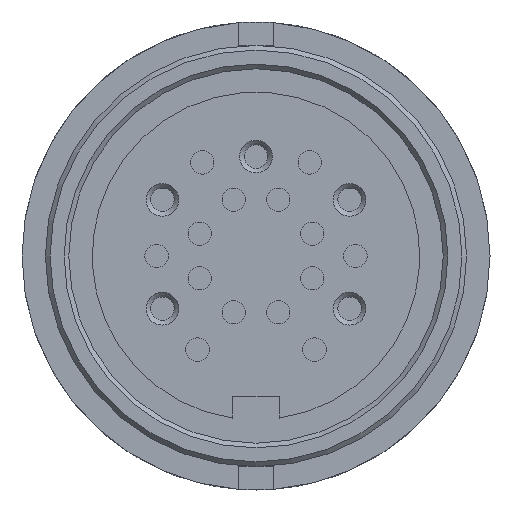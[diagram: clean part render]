
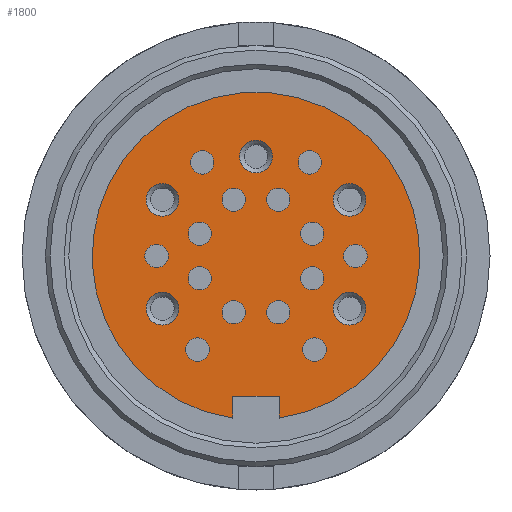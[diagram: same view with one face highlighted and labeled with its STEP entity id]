
A CAD part, front view. The second image highlights one B-rep face of the part: STEP entity #1800.
In plain terms, the highlighted planar face has unit normal (0, -1, 0).
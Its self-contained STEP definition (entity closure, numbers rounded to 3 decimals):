
#1547=CARTESIAN_POINT('',(3.3,-12.5,2.4));
#1548=VERTEX_POINT('',#1547);
#1549=CARTESIAN_POINT('',(4.,-12.5,2.4));
#1550=DIRECTION('',(0.0,-1.0,0.0));
#1551=DIRECTION('',(1.0,0.0,0.0));
#1552=AXIS2_PLACEMENT_3D('',#1549,#1550,#1551);
#1553=CIRCLE('',#1552,0.7);
#1554=EDGE_CURVE('',#1548,#1548,#1553,.T.);
#1559=CARTESIAN_POINT('',(0.0,-12.5,3.5));
#1560=DIRECTION('',(0.0,-1.0,0.0));
#1561=DIRECTION('',(0.0,0.0,-1.0));
#1562=AXIS2_PLACEMENT_3D('',#1559,#1560,#1561);
#1563=PLANE('',#1562);
#1564=CARTESIAN_POINT('',(-1.,-12.5,-6.928));
#1565=VERTEX_POINT('',#1564);
#1566=CARTESIAN_POINT('',(-1.,-12.5,-6.));
#1567=VERTEX_POINT('',#1566);
#1568=CARTESIAN_POINT('',(-1.,-12.5,-6.928));
#1569=DIRECTION('',(0.0,0.0,1.0));
#1570=VECTOR('',#1569,0.928);
#1571=LINE('',#1568,#1570);
#1572=EDGE_CURVE('',#1565,#1567,#1571,.T.);
#1573=ORIENTED_EDGE('',*,*,#1572,.T.);
#1574=CARTESIAN_POINT('',(1.,-12.5,-6.));
#1575=VERTEX_POINT('',#1574);
#1576=CARTESIAN_POINT('',(-1.,-12.5,-6.));
#1577=DIRECTION('',(1.0,0.0,0.0));
#1578=VECTOR('',#1577,2.);
#1579=LINE('',#1576,#1578);
#1580=EDGE_CURVE('',#1567,#1575,#1579,.T.);
#1581=ORIENTED_EDGE('',*,*,#1580,.T.);
#1582=CARTESIAN_POINT('',(1.,-12.5,-6.928));
#1583=VERTEX_POINT('',#1582);
#1584=CARTESIAN_POINT('',(1.,-12.5,-6.));
#1585=DIRECTION('',(0.0,0.0,-1.0));
#1586=VECTOR('',#1585,0.928);
#1587=LINE('',#1584,#1586);
#1588=EDGE_CURVE('',#1575,#1583,#1587,.T.);
#1589=ORIENTED_EDGE('',*,*,#1588,.T.);
#1590=CARTESIAN_POINT('',(0.0,-12.5,0.));
#1591=DIRECTION('',(0.0,1.0,0.0));
#1592=DIRECTION('',(0.0,0.0,1.0));
#1593=AXIS2_PLACEMENT_3D('',#1590,#1591,#1592);
#1594=CIRCLE('',#1593,7.);
#1595=EDGE_CURVE('',#1565,#1583,#1594,.T.);
#1596=ORIENTED_EDGE('',*,*,#1595,.F.);
#1597=EDGE_LOOP('',(#1573,#1581,#1589,#1596));
#1598=FACE_OUTER_BOUND('',#1597,.T.);
#1599=CARTESIAN_POINT('',(-0.7,-12.5,4.25));
#1600=VERTEX_POINT('',#1599);
#1601=CARTESIAN_POINT('',(0.0,-12.5,4.25));
#1602=DIRECTION('',(0.0,-1.0,0.0));
#1603=DIRECTION('',(1.0,0.0,0.0));
#1604=AXIS2_PLACEMENT_3D('',#1601,#1602,#1603);
#1605=CIRCLE('',#1604,0.7);
#1606=EDGE_CURVE('',#1600,#1600,#1605,.T.);
#1607=ORIENTED_EDGE('',*,*,#1606,.F.);
#1608=EDGE_LOOP('',(#1607));
#1609=FACE_BOUND('',#1608,.T.);
#1610=CARTESIAN_POINT('',(3.3,-12.5,-2.25));
#1611=VERTEX_POINT('',#1610);
#1612=CARTESIAN_POINT('',(4.,-12.5,-2.25));
#1613=DIRECTION('',(0.0,-1.0,0.0));
#1614=DIRECTION('',(1.0,0.0,0.0));
#1615=AXIS2_PLACEMENT_3D('',#1612,#1613,#1614);
#1616=CIRCLE('',#1615,0.7);
#1617=EDGE_CURVE('',#1611,#1611,#1616,.T.);
#1618=ORIENTED_EDGE('',*,*,#1617,.F.);
#1619=EDGE_LOOP('',(#1618));
#1620=FACE_BOUND('',#1619,.T.);
#1621=CARTESIAN_POINT('',(2.,-12.5,-4.));
#1622=VERTEX_POINT('',#1621);
#1623=CARTESIAN_POINT('',(2.5,-12.5,-4.));
#1624=DIRECTION('',(0.0,1.0,0.0));
#1625=DIRECTION('',(1.0,0.0,0.0));
#1626=AXIS2_PLACEMENT_3D('',#1623,#1624,#1625);
#1627=CIRCLE('',#1626,0.5);
#1628=EDGE_CURVE('',#1622,#1622,#1627,.T.);
#1629=ORIENTED_EDGE('',*,*,#1628,.T.);
#1630=EDGE_LOOP('',(#1629));
#1631=FACE_BOUND('',#1630,.T.);
#1632=CARTESIAN_POINT('',(1.8,-12.5,4.));
#1633=VERTEX_POINT('',#1632);
#1634=CARTESIAN_POINT('',(2.3,-12.5,4.));
#1635=DIRECTION('',(0.0,1.0,0.0));
#1636=DIRECTION('',(1.0,0.0,0.0));
#1637=AXIS2_PLACEMENT_3D('',#1634,#1635,#1636);
#1638=CIRCLE('',#1637,0.5);
#1639=EDGE_CURVE('',#1633,#1633,#1638,.T.);
#1640=ORIENTED_EDGE('',*,*,#1639,.T.);
#1641=EDGE_LOOP('',(#1640));
#1642=FACE_BOUND('',#1641,.T.);
#1643=CARTESIAN_POINT('',(1.9,-12.5,0.95));
#1644=VERTEX_POINT('',#1643);
#1645=CARTESIAN_POINT('',(2.4,-12.5,0.95));
#1646=DIRECTION('',(0.0,1.0,0.0));
#1647=DIRECTION('',(1.0,0.0,0.0));
#1648=AXIS2_PLACEMENT_3D('',#1645,#1646,#1647);
#1649=CIRCLE('',#1648,0.5);
#1650=EDGE_CURVE('',#1644,#1644,#1649,.T.);
#1651=ORIENTED_EDGE('',*,*,#1650,.T.);
#1652=EDGE_LOOP('',(#1651));
#1653=FACE_BOUND('',#1652,.T.);
#1654=CARTESIAN_POINT('',(0.45,-12.5,-2.4));
#1655=VERTEX_POINT('',#1654);
#1656=CARTESIAN_POINT('',(0.95,-12.5,-2.4));
#1657=DIRECTION('',(0.0,1.0,0.0));
#1658=DIRECTION('',(1.0,0.0,0.0));
#1659=AXIS2_PLACEMENT_3D('',#1656,#1657,#1658);
#1660=CIRCLE('',#1659,0.5);
#1661=EDGE_CURVE('',#1655,#1655,#1660,.T.);
#1662=ORIENTED_EDGE('',*,*,#1661,.T.);
#1663=EDGE_LOOP('',(#1662));
#1664=FACE_BOUND('',#1663,.T.);
#1665=CARTESIAN_POINT('',(-2.9,-12.5,-0.95));
#1666=VERTEX_POINT('',#1665);
#1667=CARTESIAN_POINT('',(-2.4,-12.5,-0.95));
#1668=DIRECTION('',(0.0,1.0,0.0));
#1669=DIRECTION('',(1.0,0.0,0.0));
#1670=AXIS2_PLACEMENT_3D('',#1667,#1668,#1669);
#1671=CIRCLE('',#1670,0.5);
#1672=EDGE_CURVE('',#1666,#1666,#1671,.T.);
#1673=ORIENTED_EDGE('',*,*,#1672,.T.);
#1674=EDGE_LOOP('',(#1673));
#1675=FACE_BOUND('',#1674,.T.);
#1676=CARTESIAN_POINT('',(-2.9,-12.5,0.95));
#1677=VERTEX_POINT('',#1676);
#1678=CARTESIAN_POINT('',(-2.4,-12.5,0.95));
#1679=DIRECTION('',(0.0,1.0,0.0));
#1680=DIRECTION('',(1.0,0.0,0.0));
#1681=AXIS2_PLACEMENT_3D('',#1678,#1679,#1680);
#1682=CIRCLE('',#1681,0.5);
#1683=EDGE_CURVE('',#1677,#1677,#1682,.T.);
#1684=ORIENTED_EDGE('',*,*,#1683,.T.);
#1685=EDGE_LOOP('',(#1684));
#1686=FACE_BOUND('',#1685,.T.);
#1687=CARTESIAN_POINT('',(-1.45,-12.5,2.4));
#1688=VERTEX_POINT('',#1687);
#1689=CARTESIAN_POINT('',(-0.95,-12.5,2.4));
#1690=DIRECTION('',(0.0,1.0,0.0));
#1691=DIRECTION('',(1.0,0.0,0.0));
#1692=AXIS2_PLACEMENT_3D('',#1689,#1690,#1691);
#1693=CIRCLE('',#1692,0.5);
#1694=EDGE_CURVE('',#1688,#1688,#1693,.T.);
#1695=ORIENTED_EDGE('',*,*,#1694,.T.);
#1696=EDGE_LOOP('',(#1695));
#1697=FACE_BOUND('',#1696,.T.);
#1698=CARTESIAN_POINT('',(0.45,-12.5,2.4));
#1699=VERTEX_POINT('',#1698);
#1700=CARTESIAN_POINT('',(0.95,-12.5,2.4));
#1701=DIRECTION('',(0.0,1.0,0.0));
#1702=DIRECTION('',(1.0,0.0,0.0));
#1703=AXIS2_PLACEMENT_3D('',#1700,#1701,#1702);
#1704=CIRCLE('',#1703,0.5);
#1705=EDGE_CURVE('',#1699,#1699,#1704,.T.);
#1706=ORIENTED_EDGE('',*,*,#1705,.T.);
#1707=EDGE_LOOP('',(#1706));
#1708=FACE_BOUND('',#1707,.T.);
#1709=CARTESIAN_POINT('',(-4.75,-12.5,0.));
#1710=VERTEX_POINT('',#1709);
#1711=CARTESIAN_POINT('',(-4.25,-12.5,0.));
#1712=DIRECTION('',(0.0,1.0,0.0));
#1713=DIRECTION('',(1.0,0.0,0.0));
#1714=AXIS2_PLACEMENT_3D('',#1711,#1712,#1713);
#1715=CIRCLE('',#1714,0.5);
#1716=EDGE_CURVE('',#1710,#1710,#1715,.T.);
#1717=ORIENTED_EDGE('',*,*,#1716,.T.);
#1718=EDGE_LOOP('',(#1717));
#1719=FACE_BOUND('',#1718,.T.);
#1720=CARTESIAN_POINT('',(-1.45,-12.5,-2.4));
#1721=VERTEX_POINT('',#1720);
#1722=CARTESIAN_POINT('',(-0.95,-12.5,-2.4));
#1723=DIRECTION('',(0.0,1.0,0.0));
#1724=DIRECTION('',(1.0,0.0,0.0));
#1725=AXIS2_PLACEMENT_3D('',#1722,#1723,#1724);
#1726=CIRCLE('',#1725,0.5);
#1727=EDGE_CURVE('',#1721,#1721,#1726,.T.);
#1728=ORIENTED_EDGE('',*,*,#1727,.T.);
#1729=EDGE_LOOP('',(#1728));
#1730=FACE_BOUND('',#1729,.T.);
#1731=CARTESIAN_POINT('',(1.9,-12.5,-0.95));
#1732=VERTEX_POINT('',#1731);
#1733=CARTESIAN_POINT('',(2.4,-12.5,-0.95));
#1734=DIRECTION('',(0.0,1.0,0.0));
#1735=DIRECTION('',(1.0,0.0,0.0));
#1736=AXIS2_PLACEMENT_3D('',#1733,#1734,#1735);
#1737=CIRCLE('',#1736,0.5);
#1738=EDGE_CURVE('',#1732,#1732,#1737,.T.);
#1739=ORIENTED_EDGE('',*,*,#1738,.T.);
#1740=EDGE_LOOP('',(#1739));
#1741=FACE_BOUND('',#1740,.T.);
#1742=CARTESIAN_POINT('',(3.75,-12.5,0.));
#1743=VERTEX_POINT('',#1742);
#1744=CARTESIAN_POINT('',(4.25,-12.5,0.));
#1745=DIRECTION('',(0.0,1.0,0.0));
#1746=DIRECTION('',(1.0,0.0,0.0));
#1747=AXIS2_PLACEMENT_3D('',#1744,#1745,#1746);
#1748=CIRCLE('',#1747,0.5);
#1749=EDGE_CURVE('',#1743,#1743,#1748,.T.);
#1750=ORIENTED_EDGE('',*,*,#1749,.T.);
#1751=EDGE_LOOP('',(#1750));
#1752=FACE_BOUND('',#1751,.T.);
#1753=CARTESIAN_POINT('',(-2.8,-12.5,4.));
#1754=VERTEX_POINT('',#1753);
#1755=CARTESIAN_POINT('',(-2.3,-12.5,4.));
#1756=DIRECTION('',(0.0,1.0,0.0));
#1757=DIRECTION('',(1.0,0.0,0.0));
#1758=AXIS2_PLACEMENT_3D('',#1755,#1756,#1757);
#1759=CIRCLE('',#1758,0.5);
#1760=EDGE_CURVE('',#1754,#1754,#1759,.T.);
#1761=ORIENTED_EDGE('',*,*,#1760,.T.);
#1762=EDGE_LOOP('',(#1761));
#1763=FACE_BOUND('',#1762,.T.);
#1764=CARTESIAN_POINT('',(-3.,-12.5,-4.));
#1765=VERTEX_POINT('',#1764);
#1766=CARTESIAN_POINT('',(-2.5,-12.5,-4.));
#1767=DIRECTION('',(0.0,1.0,0.0));
#1768=DIRECTION('',(1.0,0.0,0.0));
#1769=AXIS2_PLACEMENT_3D('',#1766,#1767,#1768);
#1770=CIRCLE('',#1769,0.5);
#1771=EDGE_CURVE('',#1765,#1765,#1770,.T.);
#1772=ORIENTED_EDGE('',*,*,#1771,.T.);
#1773=EDGE_LOOP('',(#1772));
#1774=FACE_BOUND('',#1773,.T.);
#1775=CARTESIAN_POINT('',(-4.7,-12.5,2.4));
#1776=VERTEX_POINT('',#1775);
#1777=CARTESIAN_POINT('',(-4.,-12.5,2.4));
#1778=DIRECTION('',(0.0,-1.0,0.0));
#1779=DIRECTION('',(1.0,0.0,0.0));
#1780=AXIS2_PLACEMENT_3D('',#1777,#1778,#1779);
#1781=CIRCLE('',#1780,0.7);
#1782=EDGE_CURVE('',#1776,#1776,#1781,.T.);
#1783=ORIENTED_EDGE('',*,*,#1782,.F.);
#1784=EDGE_LOOP('',(#1783));
#1785=FACE_BOUND('',#1784,.T.);
#1786=CARTESIAN_POINT('',(-4.7,-12.5,-2.25));
#1787=VERTEX_POINT('',#1786);
#1788=CARTESIAN_POINT('',(-4.,-12.5,-2.25));
#1789=DIRECTION('',(0.0,-1.0,0.0));
#1790=DIRECTION('',(1.0,0.0,0.0));
#1791=AXIS2_PLACEMENT_3D('',#1788,#1789,#1790);
#1792=CIRCLE('',#1791,0.7);
#1793=EDGE_CURVE('',#1787,#1787,#1792,.T.);
#1794=ORIENTED_EDGE('',*,*,#1793,.F.);
#1795=EDGE_LOOP('',(#1794));
#1796=FACE_BOUND('',#1795,.T.);
#1797=ORIENTED_EDGE('',*,*,#1554,.F.);
#1798=EDGE_LOOP('',(#1797));
#1799=FACE_BOUND('',#1798,.T.);
#1800=ADVANCED_FACE('',(#1598,#1609,#1620,#1631,#1642,#1653,#1664,#1675,#1686,#1697,#1708,#1719,#1730,#1741,#1752,#1763,#1774,#1785,#1796,#1799),#1563,.T.);
